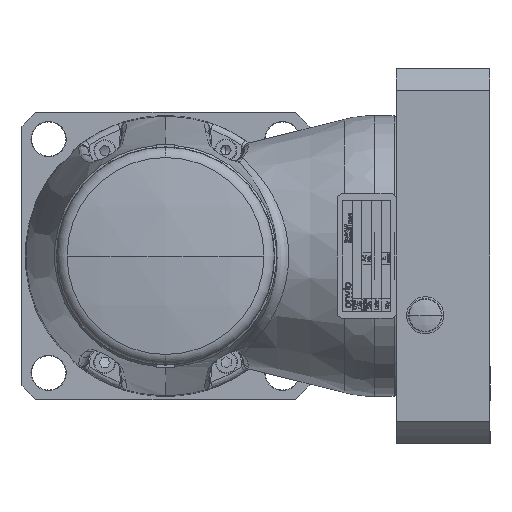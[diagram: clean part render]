
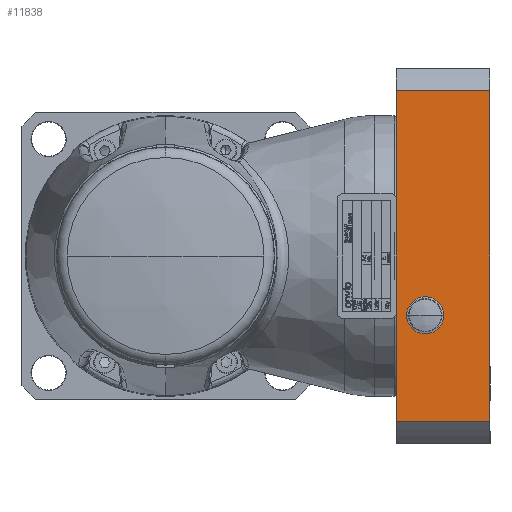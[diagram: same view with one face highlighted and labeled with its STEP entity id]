
A CAD part, left-side view. The second image highlights one B-rep face of the part: STEP entity #11838.
In plain terms, the highlighted planar face has unit normal (-1, 0, 0).
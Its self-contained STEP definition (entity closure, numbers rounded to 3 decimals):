
#784 = VERTEX_POINT ( 'NONE', #3245 ) ;
#2268 = VERTEX_POINT ( 'NONE', #37617 ) ;
#3245 = CARTESIAN_POINT ( 'NONE',  ( -60., -104., -52.915 ) ) ;
#3985 = DIRECTION ( 'NONE',  ( 0., 0., 1. ) ) ;
#4653 = DIRECTION ( 'NONE',  ( 0., -1., 0. ) ) ;
#5568 = LINE ( 'NONE', #38153, #40303 ) ;
#6183 = CIRCLE ( 'NONE', #21597, 5.35 ) ;
#6384 = EDGE_LOOP ( 'NONE', ( #11133, #8860, #11734, #11231 ) ) ;
#8860 = ORIENTED_EDGE ( 'NONE', *, *, #14668, .F. ) ;
#9222 = DIRECTION ( 'NONE',  ( 0., 1., 0. ) ) ;
#9397 = LINE ( 'NONE', #37788, #18038 ) ;
#11133 = ORIENTED_EDGE ( 'NONE', *, *, #27876, .T. ) ;
#11231 = ORIENTED_EDGE ( 'NONE', *, *, #22923, .T. ) ;
#11359 = FACE_OUTER_BOUND ( 'NONE', #6384, .T. ) ;
#11734 = ORIENTED_EDGE ( 'NONE', *, *, #35985, .T. ) ;
#11838 = ADVANCED_FACE ( 'NONE', ( #11359, #20978 ), #37008, .F. ) ;
#14668 = EDGE_CURVE ( 'NONE', #36669, #25570, #9397, .T. ) ;
#17035 = LINE ( 'NONE', #32607, #34841 ) ;
#17777 = CARTESIAN_POINT ( 'NONE',  ( -60., -104., 52.915 ) ) ;
#18036 = LINE ( 'NONE', #34061, #31807 ) ;
#18038 = VECTOR ( 'NONE', #31866, 1000. ) ;
#18362 = DIRECTION ( 'NONE',  ( 0., 0., 1. ) ) ;
#18911 = EDGE_LOOP ( 'NONE', ( #29915, #30954 ) ) ;
#20454 = CARTESIAN_POINT ( 'NONE',  ( -60., -74., 52.915 ) ) ;
#20772 = CARTESIAN_POINT ( 'NONE',  ( -60., -74., 60. ) ) ;
#20978 = FACE_BOUND ( 'NONE', #18911, .T. ) ;
#21597 = AXIS2_PLACEMENT_3D ( 'NONE', #38072, #24972, #37874 ) ;
#22923 = EDGE_CURVE ( 'NONE', #784, #31619, #5568, .T. ) ;
#24141 = EDGE_CURVE ( 'NONE', #31172, #2268, #30162, .T. ) ;
#24536 = AXIS2_PLACEMENT_3D ( 'NONE', #20772, #33649, #33435 ) ;
#24972 = DIRECTION ( 'NONE',  ( -1., 0., 0. ) ) ;
#25570 = VERTEX_POINT ( 'NONE', #20454 ) ;
#27124 = CARTESIAN_POINT ( 'NONE',  ( -60., -74., -52.915 ) ) ;
#27257 = CARTESIAN_POINT ( 'NONE',  ( -60., -83.25, -19. ) ) ;
#27876 = EDGE_CURVE ( 'NONE', #31619, #25570, #18036, .T. ) ;
#29915 = ORIENTED_EDGE ( 'NONE', *, *, #24141, .F. ) ;
#30162 = CIRCLE ( 'NONE', #30832, 5.35 ) ;
#30832 = AXIS2_PLACEMENT_3D ( 'NONE', #27257, #40139, #3985 ) ;
#30954 = ORIENTED_EDGE ( 'NONE', *, *, #31758, .F. ) ;
#31172 = VERTEX_POINT ( 'NONE', #37034 ) ;
#31619 = VERTEX_POINT ( 'NONE', #17777 ) ;
#31758 = EDGE_CURVE ( 'NONE', #2268, #31172, #6183, .T. ) ;
#31807 = VECTOR ( 'NONE', #9222, 1000. ) ;
#31866 = DIRECTION ( 'NONE',  ( 0., 0., 1. ) ) ;
#32607 = CARTESIAN_POINT ( 'NONE',  ( -60., -73.999, -52.915 ) ) ;
#33435 = DIRECTION ( 'NONE',  ( 0., 0., -1. ) ) ;
#33649 = DIRECTION ( 'NONE',  ( 1., 0., 0. ) ) ;
#34061 = CARTESIAN_POINT ( 'NONE',  ( -60., -73.999, 52.915 ) ) ;
#34841 = VECTOR ( 'NONE', #4653, 1000. ) ;
#35985 = EDGE_CURVE ( 'NONE', #36669, #784, #17035, .T. ) ;
#36669 = VERTEX_POINT ( 'NONE', #27124 ) ;
#37008 = PLANE ( 'NONE',  #24536 ) ;
#37034 = CARTESIAN_POINT ( 'NONE',  ( -60., -83.25, -13.65 ) ) ;
#37617 = CARTESIAN_POINT ( 'NONE',  ( -60., -83.25, -24.35 ) ) ;
#37788 = CARTESIAN_POINT ( 'NONE',  ( -60., -74., 60. ) ) ;
#37874 = DIRECTION ( 'NONE',  ( 0., 0., 1. ) ) ;
#38072 = CARTESIAN_POINT ( 'NONE',  ( -60., -83.25, -19. ) ) ;
#38153 = CARTESIAN_POINT ( 'NONE',  ( -60., -104., 60. ) ) ;
#40139 = DIRECTION ( 'NONE',  ( -1., 0., 0. ) ) ;
#40303 = VECTOR ( 'NONE', #18362, 1000. ) ;
